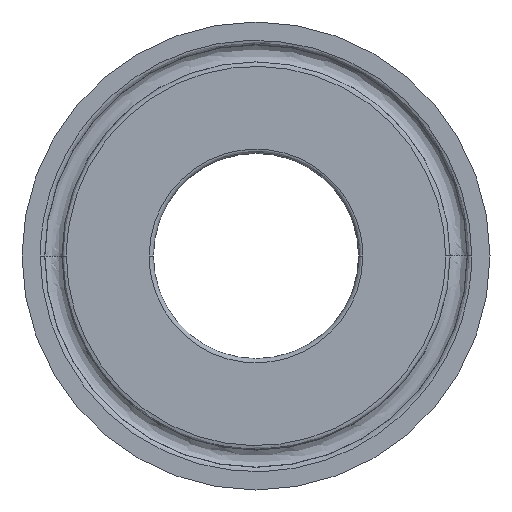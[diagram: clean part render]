
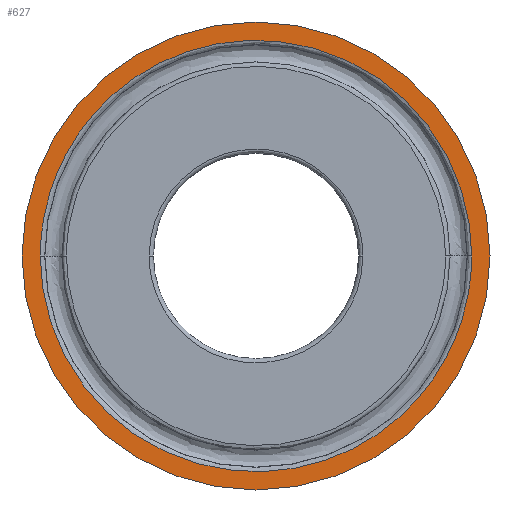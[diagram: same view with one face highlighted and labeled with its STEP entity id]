
A CAD part, left-side view. The second image highlights one B-rep face of the part: STEP entity #627.
In plain terms, the highlighted planar face has unit normal (-1, 0, 0).
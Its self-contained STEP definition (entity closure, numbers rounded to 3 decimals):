
#5 = ORIENTED_EDGE ( 'NONE', *, *, #98, .T. ) ;
#18 = EDGE_LOOP ( 'NONE', ( #5, #868 ) ) ;
#29 = CARTESIAN_POINT ( 'NONE',  ( -12.7, -23.224, 0. ) ) ;
#55 = CARTESIAN_POINT ( 'NONE',  ( -12.7, 23.224, -46.448 ) ) ;
#83 = CARTESIAN_POINT ( 'NONE',  ( -12.7, 23.224, 0. ) ) ;
#98 = EDGE_CURVE ( 'NONE', #851, #596, #924, .T. ) ;
#106 = VERTEX_POINT ( 'NONE', #282 ) ;
#125 = DIRECTION ( 'NONE',  ( -1., 0., 0. ) ) ;
#169 = AXIS2_PLACEMENT_3D ( 'NONE', #1197, #817, #1222 ) ;
#203 = AXIS2_PLACEMENT_3D ( 'NONE', #397, #125, #501 ) ;
#282 = CARTESIAN_POINT ( 'NONE',  ( -12.7, -23.224, 0. ) ) ;
#397 = CARTESIAN_POINT ( 'NONE',  ( -12.7, 0., 0. ) ) ;
#421 = CARTESIAN_POINT ( 'NONE',  ( -12.7, 23.224, 0. ) ) ;
#439 = CARTESIAN_POINT ( 'NONE',  ( -12.7, -23.224, 46.448 ) ) ;
#446 = EDGE_CURVE ( 'NONE', #106, #626, #1111, .T. ) ;
#483 = CARTESIAN_POINT ( 'NONE',  ( -12.7, -25.197, 0. ) ) ;
#501 = DIRECTION ( 'NONE',  ( 0., 1., 0. ) ) ;
#520 = CIRCLE ( 'NONE', #203, 25.197 ) ;
#596 = VERTEX_POINT ( 'NONE', #483 ) ;
#626 = VERTEX_POINT ( 'NONE', #83 ) ;
#627 = ADVANCED_FACE ( 'NONE', ( #742, #708 ), #1138, .T. ) ;
#633 = EDGE_CURVE ( 'NONE', #626, #106, #1318, .T. ) ;
#661 = ORIENTED_EDGE ( 'NONE', *, *, #446, .F. ) ;
#708 = FACE_BOUND ( 'NONE', #971, .T. ) ;
#742 = FACE_OUTER_BOUND ( 'NONE', #18, .T. ) ;
#792 = ORIENTED_EDGE ( 'NONE', *, *, #633, .F. ) ;
#817 = DIRECTION ( 'NONE',  ( -1., 0., 0. ) ) ;
#851 = VERTEX_POINT ( 'NONE', #1163 ) ;
#868 = ORIENTED_EDGE ( 'NONE', *, *, #890, .T. ) ;
#890 = EDGE_CURVE ( 'NONE', #596, #851, #520, .T. ) ;
#903 = CARTESIAN_POINT ( 'NONE',  ( -12.7, 23.224, 46.448 ) ) ;
#917 = CARTESIAN_POINT ( 'NONE',  ( -12.7, -23.224, -46.448 ) ) ;
#924 = CIRCLE ( 'NONE', #1057, 25.197 ) ;
#971 = EDGE_LOOP ( 'NONE', ( #661, #792 ) ) ;
#1057 = AXIS2_PLACEMENT_3D ( 'NONE', #1247, #1251, #1263 ) ;
#1111 =( BOUNDED_CURVE ( )  B_SPLINE_CURVE ( 3, ( #1281, #439, #903, #1285 ),
 .UNSPECIFIED., .F., .T. ) 
 B_SPLINE_CURVE_WITH_KNOTS ( ( 4, 4 ),
 ( 0., 1. ),
 .UNSPECIFIED. ) 
 CURVE ( )  GEOMETRIC_REPRESENTATION_ITEM ( )  RATIONAL_B_SPLINE_CURVE ( ( 1., 0.333, 0.333, 1. ) ) 
 REPRESENTATION_ITEM ( '' )  );
#1138 = PLANE ( 'NONE',  #169 ) ;
#1163 = CARTESIAN_POINT ( 'NONE',  ( -12.7, 25.197, 0. ) ) ;
#1197 = CARTESIAN_POINT ( 'NONE',  ( -12.7, 25.197, 0. ) ) ;
#1222 = DIRECTION ( 'NONE',  ( 0., -1., 0. ) ) ;
#1247 = CARTESIAN_POINT ( 'NONE',  ( -12.7, 0., 0. ) ) ;
#1251 = DIRECTION ( 'NONE',  ( -1., 0., 0. ) ) ;
#1263 = DIRECTION ( 'NONE',  ( 0., 1., 0. ) ) ;
#1281 = CARTESIAN_POINT ( 'NONE',  ( -12.7, -23.224, 0. ) ) ;
#1285 = CARTESIAN_POINT ( 'NONE',  ( -12.7, 23.224, 0. ) ) ;
#1318 =( BOUNDED_CURVE ( )  B_SPLINE_CURVE ( 3, ( #421, #55, #917, #29 ),
 .UNSPECIFIED., .F., .T. ) 
 B_SPLINE_CURVE_WITH_KNOTS ( ( 4, 4 ),
 ( 0., 1. ),
 .UNSPECIFIED. ) 
 CURVE ( )  GEOMETRIC_REPRESENTATION_ITEM ( )  RATIONAL_B_SPLINE_CURVE ( ( 1., 0.333, 0.333, 1. ) ) 
 REPRESENTATION_ITEM ( '' )  );
